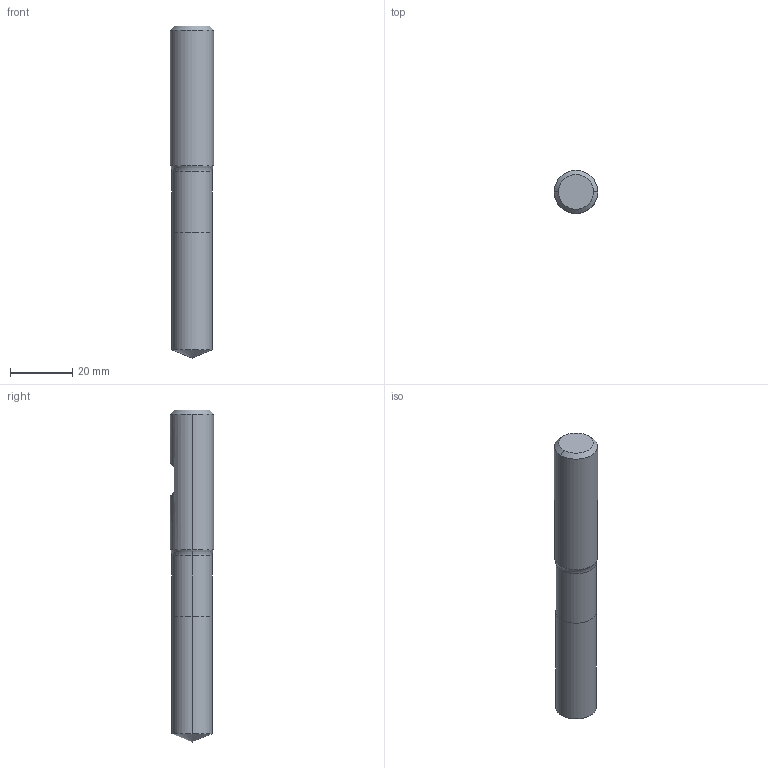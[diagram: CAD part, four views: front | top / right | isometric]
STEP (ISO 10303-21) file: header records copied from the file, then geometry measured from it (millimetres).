
FILE_DESCRIPTION (( 'STEP AP214' ), '1' );
FILE_NAME ('810.130.10_3D-model.step', '2022-02-23T22:48:39', ( '' ), ( '' ), 'SwSTEP 2.0', 'SolidWorks 2020', '' );
FILE_SCHEMA (( 'AUTOMOTIVE_DESIGN' ));
Length unit declared in the file: millimetre
Products named in the file (3): NOCUT-3D^Baugr177; CUT-3D^Baugr177; 810.130.10_3D-model
Assembly tree (2 placements, depth 2):
  810.130.10_3D-model
    CUT-3D^Baugr177
    NOCUT-3D^Baugr177
Bounding box: 14 x 14 x 107 mm (x, y, z)
Volume: 14827.6 mm3; surface area: 4932.7 mm2
Topology: 2 solids, 2 shells, 18 faces, 34 edges, 19 vertices
Faces by surface type: cylinder 6, plane 6, cone 4, torus 2
Entity records: 558 total; most frequent: DIRECTION 98, CARTESIAN_POINT 83, ORIENTED_EDGE 64, AXIS2_PLACEMENT_3D 42, EDGE_CURVE 32, EDGE_LOOP 19, VERTEX_POINT 19, ADVANCED_FACE 18
